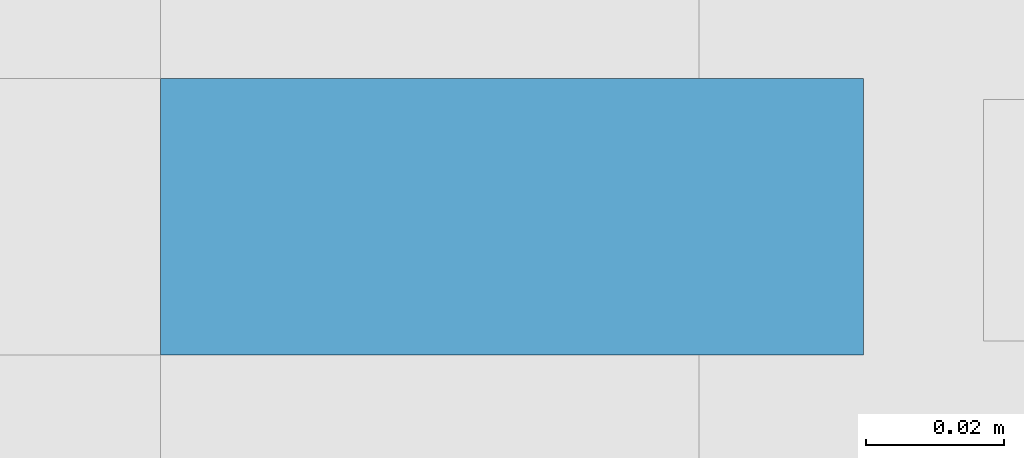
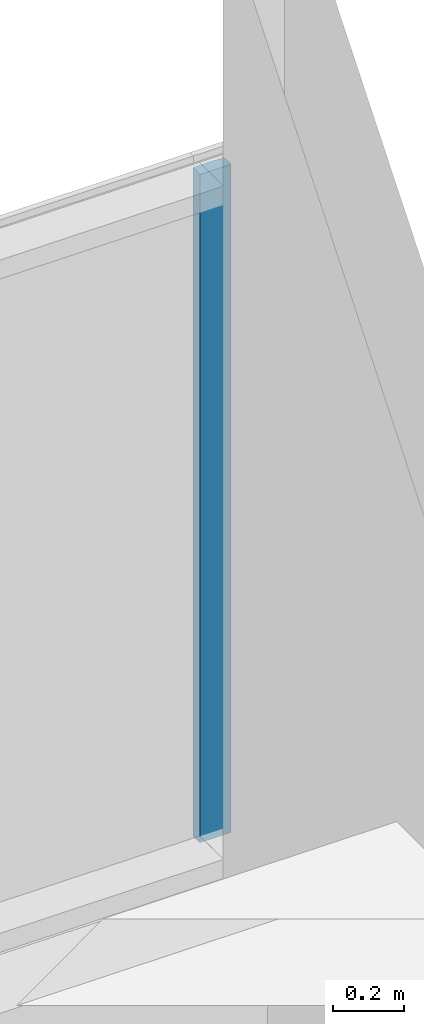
# One storey, part 33 of 106: 1 plate, 1 element without a shape of its own.
"""IFC2X3 building model written with IfcOpenShell, lengths in centimetres."""

from ifc_helpers import new_model, entity, si_unit, converted_unit, derived_unit, direction, frame, origin, origin_2d_with_axis, place, context, subcontext, project, spatial, rectangle, extrude, source, transform, mapped, material, layer, layer_set, layer_usage, type_object, type_shapes, element, aggregate, save


model = new_model("IFC2X3")

# Units and contexts
model_context = context("Model", 3, precision=0.001, world=origin(), true_north=direction((6.12303176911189e-17, 1.0)))
body_context = subcontext(model_context, "Body", "Model", "MODEL_VIEW")
ifc_project = project(units=[si_unit("LENGTHUNIT", "METRE", prefix="CENTI"), si_unit("AREAUNIT", "SQUARE_METRE"), si_unit("VOLUMEUNIT", "CUBIC_METRE"), converted_unit("PLANEANGLEUNIT", "DEGREE", entity("IfcRatioMeasure", 0.0174532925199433), si_unit("PLANEANGLEUNIT", "RADIAN"), dimensions=[0, 0, 0, 0, 0, 0, 0]), si_unit("MASSUNIT", "GRAM", prefix="KILO"), derived_unit("MASSDENSITYUNIT", [(si_unit("MASSUNIT", "GRAM", prefix="KILO"), 1), (si_unit("LENGTHUNIT", "METRE"), -3)]), si_unit("TIMEUNIT", "SECOND"), si_unit("FREQUENCYUNIT", "HERTZ"), si_unit("THERMODYNAMICTEMPERATUREUNIT", "DEGREE_CELSIUS"), derived_unit("THERMALTRANSMITTANCEUNIT", [(si_unit("MASSUNIT", "GRAM", prefix="KILO"), 1), (si_unit("THERMODYNAMICTEMPERATUREUNIT", "KELVIN"), -1), (si_unit("TIMEUNIT", "SECOND"), -3)]), derived_unit("VOLUMETRICFLOWRATEUNIT", [(si_unit("LENGTHUNIT", "METRE"), 3), (si_unit("TIMEUNIT", "SECOND"), -1)]), si_unit("ELECTRICCURRENTUNIT", "AMPERE"), si_unit("ELECTRICVOLTAGEUNIT", "VOLT"), si_unit("POWERUNIT", "WATT"), si_unit("FORCEUNIT", "NEWTON", prefix="KILO"), si_unit("ILLUMINANCEUNIT", "LUX"), si_unit("LUMINOUSFLUXUNIT", "LUMEN"), si_unit("LUMINOUSINTENSITYUNIT", "CANDELA"), derived_unit("USERDEFINED", [(si_unit("MASSUNIT", "GRAM", prefix="KILO"), -1), (si_unit("LENGTHUNIT", "METRE"), -2), (si_unit("TIMEUNIT", "SECOND"), 3), (si_unit("LUMINOUSFLUXUNIT", "LUMEN"), 1)]), derived_unit("LINEARVELOCITYUNIT", [(si_unit("LENGTHUNIT", "METRE"), 1), (si_unit("TIMEUNIT", "SECOND"), -1)]), si_unit("PRESSUREUNIT", "PASCAL"), derived_unit("USERDEFINED", [(si_unit("LENGTHUNIT", "METRE"), -2), (si_unit("MASSUNIT", "GRAM", prefix="KILO"), 1), (si_unit("TIMEUNIT", "SECOND"), -2)])], contexts=[model_context])

# Site, building, storey
site_placement = place(None, frame((-2781.94577612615, 7442.24238424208, 0.0)))
site = spatial("IfcSite", under=ifc_project, at=site_placement, Name="Default", CompositionType="ELEMENT")
building_placement = place(site_placement, origin())
building = spatial("IfcBuilding", under=site, at=building_placement, CompositionType="ELEMENT")
storey_placement = place(building_placement, frame((0.0, 0.0, 422.0)))
storey = spatial("IfcBuildingStorey", under=building, at=storey_placement, Name="Toiture - Cuisine", CompositionType="ELEMENT", Elevation=421.999999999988)

# Curtain wall, plate
curtain_wall_type = type_object("IfcCurtainWallType", Name="Mur-rideau:07 - mur rideau trame 140 cm", PredefinedType="NOTDEFINED")
curtain_wall_placement = place(building_placement, origin())
curtain_wall = element("IfcCurtainWall", 1, at=curtain_wall_placement, inside=storey, type_object=curtain_wall_type, Name="Mur-rideau:07 - mur rideau trame 140 cm", ObjectType="Mur-rideau:07 - mur rideau trame 140 cm")
ifc_material = material(Name="Verre")
ifc_layer = layer(ifc_material, 4.0)
ifc_layer_set = layer_set([ifc_layer], Name="Panneau système:Vitré")
ifc_layer_usage = layer_usage(ifc_layer_set, "AXIS3", "POSITIVE", 0.0)
plate_type = type_object("IfcPlateType", Name="Vitré", PredefinedType="CURTAIN_PANEL", material=ifc_layer_set)
shared_shape = source(origin(), body_context, "Body", "SweptSolid", [
    extrude(rectangle(XDim=4.0, YDim=10.1812531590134, at=origin_2d_with_axis()), frame((0.0, 0.0, 0.0), z_axis=(0.0, 0.0, 1.0), x_axis=(0.0, 1.0, 0.0)), (0.0, 0.0, 1.0), 229.2625),
])
type_shapes(plate_type, [shared_shape])
plate_placement = place(curtain_wall_placement, frame((-404.209256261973, -1073.79999990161, 509.61875)))
plate = element("IfcPlate", 2, at=plate_placement, type_object=plate_type, material=ifc_layer_usage, Name="Panneau système:Vitré", ObjectType="Panneau système:Vitré", context=body_context, shape_type="MappedRepresentation", body=[
    mapped(shared_shape, transform((0.0, 0.0, 0.0), scale=1.0)),
])
aggregate(curtain_wall, [plate])

save(model, "model.ifc")
